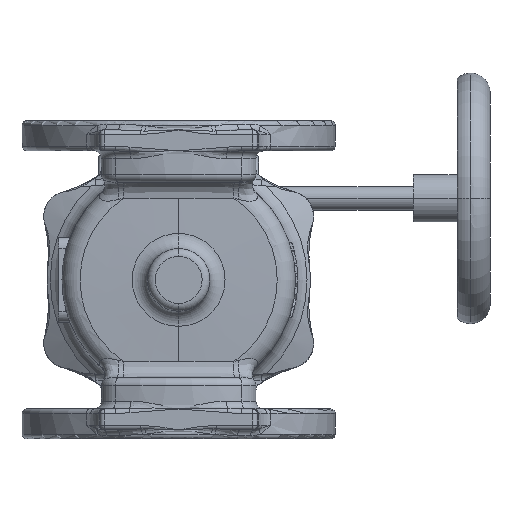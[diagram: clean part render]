
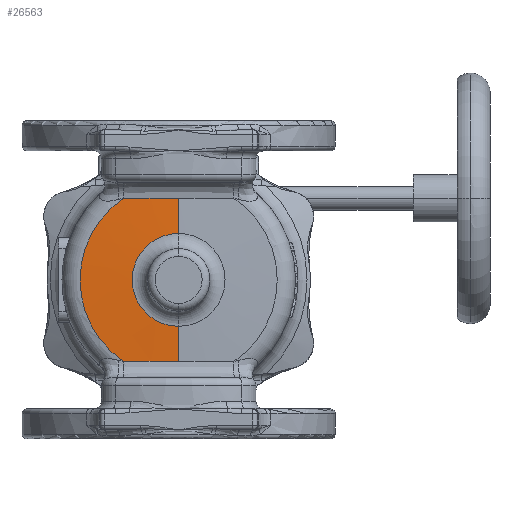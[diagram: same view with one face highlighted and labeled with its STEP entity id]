
A CAD part, front view. The second image highlights one B-rep face of the part: STEP entity #26563.
In plain terms, the highlighted conical face has half-angle 88 degrees and reference radius 74.5 mm.
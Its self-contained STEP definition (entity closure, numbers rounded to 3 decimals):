
#252 = CARTESIAN_POINT ( 'NONE',  ( -23.506, -76.916, 52.081 ) ) ;
#648 = LINE ( 'NONE', #16784, #17054 ) ;
#1074 = CARTESIAN_POINT ( 'NONE',  ( 0., -77.866, 0. ) ) ;
#3190 = EDGE_LOOP ( 'NONE', ( #44260, #10655, #23581, #10293, #23794, #36975 ) ) ;
#3349 = CARTESIAN_POINT ( 'NONE',  ( -29.383, -76.82, 52.096 ) ) ;
#3914 = CARTESIAN_POINT ( 'NONE',  ( -29.383, -76.82, -52.096 ) ) ;
#3954 = EDGE_CURVE ( 'NONE', #17060, #23973, #39249, .T. ) ;
#8060 = VERTEX_POINT ( 'NONE', #22722 ) ;
#8080 = CARTESIAN_POINT ( 'NONE',  ( 0., -77.084, 52.051 ) ) ;
#9258 = EDGE_CURVE ( 'Defeatured_0_305+Defeatured_0_259+Defeatured_0_309+Defeatured_0_298', #31583, #8060, #43585, .T. ) ;
#9292 = AXIS2_PLACEMENT_3D ( 'NONE', #26407, #11480, #36880 ) ;
#9707 = EDGE_CURVE ( 'Defeatured_0_305+Defeatured_0_298+Defeatured_0_259+Defeatured_0_270', #8060, #37791, #27468, .T. ) ;
#10293 = ORIENTED_EDGE ( 'NONE', *, *, #9258, .T. ) ;
#10434 = FACE_OUTER_BOUND ( 'NONE', #3190, .T. ) ;
#10655 = ORIENTED_EDGE ( 'NONE', *, *, #26248, .T. ) ;
#11480 = DIRECTION ( 'NONE',  ( 0., -1., 0. ) ) ;
#14006 = DIRECTION ( 'NONE',  ( 0., 1., 0. ) ) ;
#14291 = CARTESIAN_POINT ( 'NONE',  ( -5.876, -77.084, 52.051 ) ) ;
#14558 = CARTESIAN_POINT ( 'NONE',  ( 0., -77.866, 29.647 ) ) ;
#14620 = CIRCLE ( 'NONE', #41899, 29.647 ) ;
#16784 = CARTESIAN_POINT ( 'NONE',  ( 0., -76.3, 74.5 ) ) ;
#17054 = VECTOR ( 'NONE', #20346, 1000. ) ;
#17060 = VERTEX_POINT ( 'NONE', #22473 ) ;
#20346 = DIRECTION ( 'NONE',  ( 0., 0.035, 0.999 ) ) ;
#21197 = VECTOR ( 'NONE', #35896, 1000. ) ;
#22108 = CARTESIAN_POINT ( 'NONE',  ( -11.753, -77.048, 52.058 ) ) ;
#22473 = CARTESIAN_POINT ( 'NONE',  ( 0., -77.866, -29.647 ) ) ;
#22679 = VERTEX_POINT ( 'NONE', #14558 ) ;
#22722 = CARTESIAN_POINT ( 'NONE',  ( -35.259, -76.704, 52.111 ) ) ;
#22922 = DIRECTION ( 'NONE',  ( 0., 0., 1. ) ) ;
#23581 = ORIENTED_EDGE ( 'NONE', *, *, #30970, .T. ) ;
#23794 = ORIENTED_EDGE ( 'NONE', *, *, #9707, .T. ) ;
#23973 = VERTEX_POINT ( 'NONE', #36796 ) ;
#25667 = CARTESIAN_POINT ( 'NONE',  ( -35.259, -76.704, 52.111 ) ) ;
#26248 = EDGE_CURVE ( 'Defeatured_0_305+Defeatured_0_308+Defeatured_0_308+Defeatured_0_308', #17060, #22679, #14620, .T. ) ;
#26407 = CARTESIAN_POINT ( 'NONE',  ( 0., -76.704, 0. ) ) ;
#26563 = ADVANCED_FACE ( 'Defeatured_0_305', ( #10434 ), #34354, .T. ) ;
#27468 = CIRCLE ( 'NONE', #9292, 62.919 ) ;
#28230 = CARTESIAN_POINT ( 'NONE',  ( 0., -76.3, 0. ) ) ;
#29450 = CARTESIAN_POINT ( 'NONE',  ( 0., -77.084, 52.051 ) ) ;
#30537 = AXIS2_PLACEMENT_3D ( 'NONE', #28230, #14006, #46306 ) ;
#30970 = EDGE_CURVE ( 'NONE', #22679, #31583, #648, .T. ) ;
#31311 = CARTESIAN_POINT ( 'NONE',  ( -23.506, -76.916, -52.081 ) ) ;
#31583 = VERTEX_POINT ( 'NONE', #8080 ) ;
#32335 = CARTESIAN_POINT ( 'NONE',  ( 0., -76.3, -74.5 ) ) ;
#33588 = EDGE_CURVE ( 'Defeatured_0_305+Defeatured_0_270+Defeatured_0_298+Defeatured_0_309', #37791, #23973, #39040, .T. ) ;
#33807 = CARTESIAN_POINT ( 'NONE',  ( -35.259, -76.704, -52.111 ) ) ;
#34354 = CONICAL_SURFACE ( 'NONE', #30537, 74.5, 1.536 ) ;
#35896 = DIRECTION ( 'NONE',  ( 0., 0.035, -0.999 ) ) ;
#36796 = CARTESIAN_POINT ( 'NONE',  ( 0., -77.084, -52.051 ) ) ;
#36880 = DIRECTION ( 'NONE',  ( 0., 0., -1. ) ) ;
#36975 = ORIENTED_EDGE ( 'NONE', *, *, #33588, .T. ) ;
#37791 = VERTEX_POINT ( 'NONE', #40988 ) ;
#39040 = B_SPLINE_CURVE_WITH_KNOTS ( 'NONE', 3,
 ( #33807, #3914, #31311, #42970, #42266, #46068 ),
 .UNSPECIFIED., .F., .F.,
 ( 4, 2, 4 ),
 ( 0., 0.018, 0.035 ),
 .UNSPECIFIED. ) ;
#39249 = LINE ( 'NONE', #32335, #21197 ) ;
#40988 = CARTESIAN_POINT ( 'NONE',  ( -35.259, -76.704, -52.111 ) ) ;
#41198 = DIRECTION ( 'NONE',  ( 0., 1., 0. ) ) ;
#41899 = AXIS2_PLACEMENT_3D ( 'NONE', #1074, #41198, #22922 ) ;
#42266 = CARTESIAN_POINT ( 'NONE',  ( -5.877, -77.084, -52.051 ) ) ;
#42970 = CARTESIAN_POINT ( 'NONE',  ( -11.753, -77.048, -52.058 ) ) ;
#43585 = B_SPLINE_CURVE_WITH_KNOTS ( 'NONE', 3,
 ( #29450, #14291, #22108, #252, #3349, #25667 ),
 .UNSPECIFIED., .F., .F.,
 ( 4, 2, 4 ),
 ( 0.035, 0.053, 0.071 ),
 .UNSPECIFIED. ) ;
#44260 = ORIENTED_EDGE ( 'NONE', *, *, #3954, .F. ) ;
#46068 = CARTESIAN_POINT ( 'NONE',  ( 0., -77.084, -52.051 ) ) ;
#46306 = DIRECTION ( 'NONE',  ( 0., 0., 1. ) ) ;
